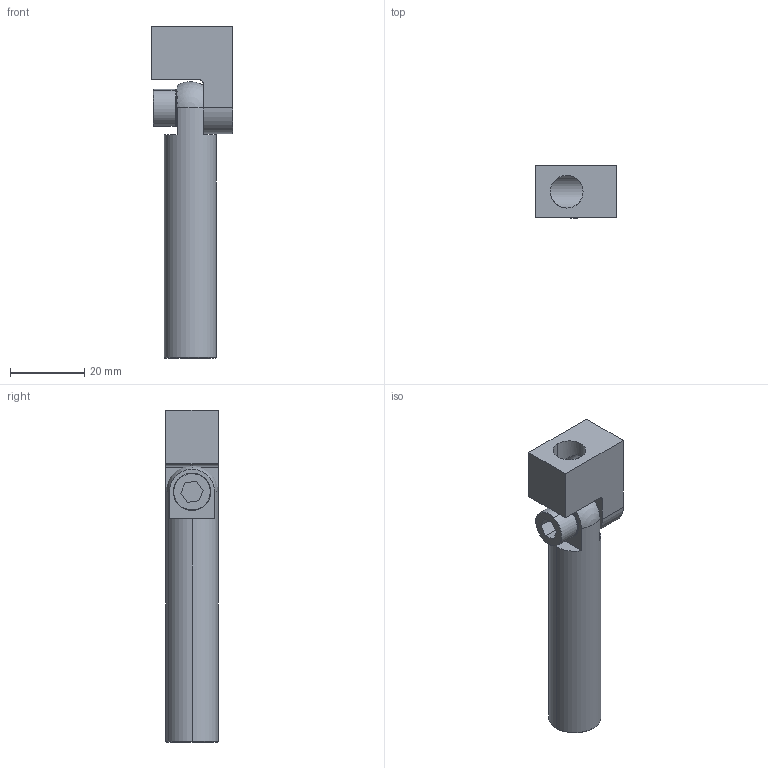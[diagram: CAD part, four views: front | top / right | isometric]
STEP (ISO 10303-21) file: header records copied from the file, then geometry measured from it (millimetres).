
FILE_DESCRIPTION (( 'STEP AP214' ), '1' );
FILE_NAME ('SEAV-G1814L60T.STEP', '2023-02-02T07:34:16', ( 'Windows User' ), ( 'P R C' ), 'SwSTEP 2.0', 'SolidWorks 2019', '' );
FILE_SCHEMA (( 'AUTOMOTIVE_DESIGN' ));
Length unit declared in the file: millimetre
Products named in the file (5): SEAV-G1814L60T; PTC-M6L14; SEAV-G1814L120.2; SEAV-G1814L60.1; PTS-M6
Assembly tree (4 placements, depth 2):
  SEAV-G1814L60T
    SEAV-G1814L120.2
    PTC-M6L14
    PTS-M6
    SEAV-G1814L60.1
Bounding box: 22 x 14 x 89.3 mm (x, y, z)
Volume: 12424 mm3; surface area: 8506.5 mm2
Topology: 4 solids, 4 shells, 220 faces, 625 edges, 410 vertices
Faces by surface type: plane 183, cylinder 23, cone 12, sphere 2
Entity records: 7373 total; most frequent: DIRECTION 1293, CARTESIAN_POINT 1266, ORIENTED_EDGE 1238, EDGE_CURVE 619, AXIS2_PLACEMENT_3D 449, VERTEX_POINT 408, LINE 395, VECTOR 395
